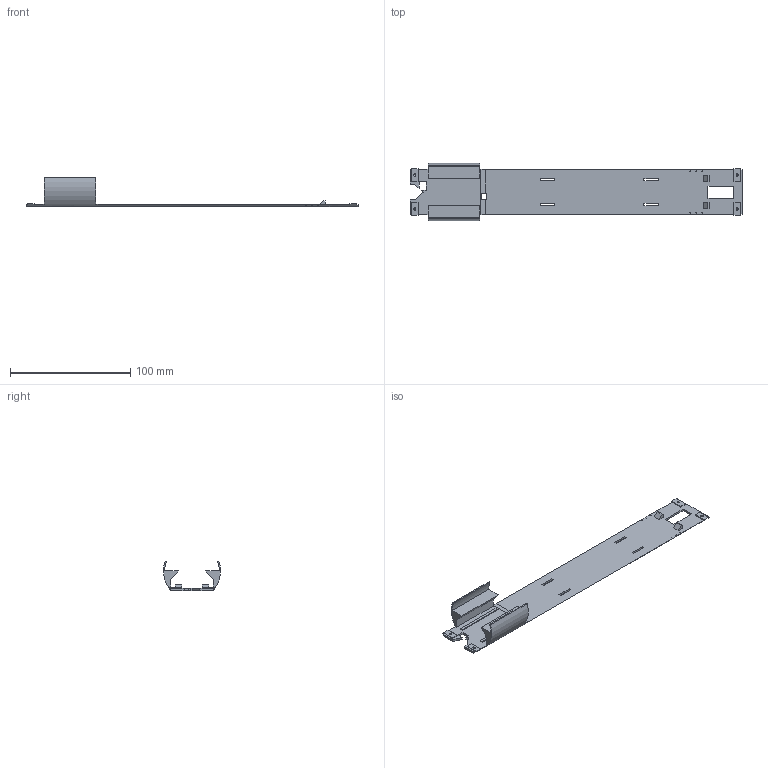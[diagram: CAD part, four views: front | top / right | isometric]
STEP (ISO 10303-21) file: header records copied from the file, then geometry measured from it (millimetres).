
FILE_DESCRIPTION(('SkyG Speed 120B - revision C7B-1 - 2026-10-09','TR-equipment-tray'),'2;1');
FILE_NAME('TR-equipment-tray_C7B-1','2026-10-09T15:13:01',('Author'),( 'Open CASCADE'),'Open CASCADE STEP processor 7.9','Open CASCADE 7.9' ,'Unknown');
FILE_SCHEMA(('AUTOMOTIVE_DESIGN { 1 0 10303 214 1 1 1 1 }'));
Length unit declared in the file: millimetre
Products named in the file (1): TR-equipment-tray C7B-1
Bounding box: 276 x 47.5 x 24.4 mm (x, y, z)
Volume: 24613.1 mm3; surface area: 26426.5 mm2
Topology: 1 solids, 1 shells, 120 faces, 357 edges, 238 vertices
Faces by surface type: plane 106, cylinder 14
Full cylindrical faces by diameter (mm): 1.6 x4
Entity records: 8817 total; most frequent: CARTESIAN_POINT 2249, DIRECTION 1022, ORIENTED_EDGE 714, PCURVE 714, DEFINITIONAL_REPRESENTATION 714, LINE 648, VECTOR 648, EDGE_CURVE 357
